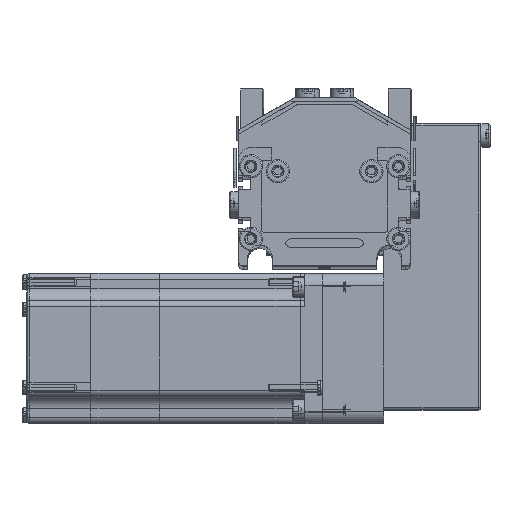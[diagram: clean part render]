
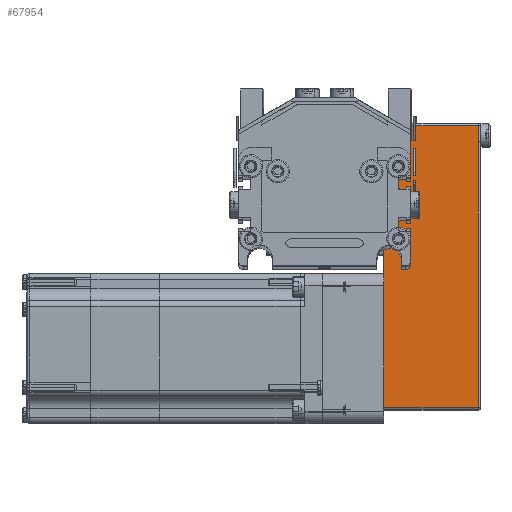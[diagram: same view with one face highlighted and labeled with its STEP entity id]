
A CAD part, top view. The second image highlights one B-rep face of the part: STEP entity #67954.
In plain terms, the highlighted planar face has unit normal (0, 0, 1) as drawn and (0, -1, 0) by its records, which use the part's own axes.
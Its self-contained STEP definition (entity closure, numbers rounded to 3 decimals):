
#67552 = ORIENTED_EDGE ( 'NONE', *, *, #67559, .T. ) ;
#67555 = EDGE_CURVE ( 'NONE', #68133, #67992, #122797, .T. ) ;
#67559 = EDGE_CURVE ( 'NONE', #67818, #68133, #122962, .T. ) ;
#67564 = ORIENTED_EDGE ( 'NONE', *, *, #67996, .T. ) ;
#67571 = EDGE_CURVE ( 'NONE', #67766, #67818, #122953, .T. ) ;
#67582 = ORIENTED_EDGE ( 'NONE', *, *, #67571, .T. ) ;
#67766 = VERTEX_POINT ( 'NONE', #123222 ) ;
#67818 = VERTEX_POINT ( 'NONE', #123370 ) ;
#67927 = EDGE_LOOP ( 'NONE', ( #67552, #68643, #67564, #67582 ) ) ;
#67954 = ADVANCED_FACE ( 'NONE', ( #124415 ), #124368, .F. ) ;
#67992 = VERTEX_POINT ( 'NONE', #124287 ) ;
#67996 = EDGE_CURVE ( 'NONE', #67992, #67766, #124286, .T. ) ;
#68133 = VERTEX_POINT ( 'NONE', #124686 ) ;
#68643 = ORIENTED_EDGE ( 'NONE', *, *, #67555, .T. ) ;
#122796 = CARTESIAN_POINT ( 'NONE',  ( -49., -25., 39.5 ) ) ;
#122797 = LINE ( 'NONE', #122796, #122966 ) ;
#122952 = CARTESIAN_POINT ( 'NONE',  ( 65.5, -25., 39.5 ) ) ;
#122953 = LINE ( 'NONE', #122952, #122964 ) ;
#122959 = DIRECTION ( 'NONE',  ( -1., 0., 0. ) ) ;
#122960 = VECTOR ( 'NONE', #122959, 1000. ) ;
#122961 = CARTESIAN_POINT ( 'NONE',  ( -50., -25., 38.5 ) ) ;
#122962 = LINE ( 'NONE', #122961, #122960 ) ;
#122963 = DIRECTION ( 'NONE',  ( 0., 0., 1. ) ) ;
#122964 = VECTOR ( 'NONE', #122963, 1000. ) ;
#122965 = DIRECTION ( 'NONE',  ( 0., 0., -1. ) ) ;
#122966 = VECTOR ( 'NONE', #122965, 1000. ) ;
#123222 = CARTESIAN_POINT ( 'NONE',  ( 65.5, -25., 0. ) ) ;
#123370 = CARTESIAN_POINT ( 'NONE',  ( 65.5, -25., 38.5 ) ) ;
#124163 = DIRECTION ( 'NONE',  ( 0., 0., 1. ) ) ;
#124164 = DIRECTION ( 'NONE',  ( 0., 1., 0. ) ) ;
#124271 = DIRECTION ( 'NONE',  ( 1., 0., 0. ) ) ;
#124272 = VECTOR ( 'NONE', #124271, 1000. ) ;
#124284 = CARTESIAN_POINT ( 'NONE',  ( -50., -25., 0. ) ) ;
#124286 = LINE ( 'NONE', #124284, #124272 ) ;
#124287 = CARTESIAN_POINT ( 'NONE',  ( -49., -25., 0. ) ) ;
#124368 = PLANE ( 'NONE',  #124429 ) ;
#124413 = CARTESIAN_POINT ( 'NONE',  ( -50., -25., 39.5 ) ) ;
#124415 = FACE_OUTER_BOUND ( 'NONE', #67927, .T. ) ;
#124429 = AXIS2_PLACEMENT_3D ( 'NONE', #124413, #124164, #124163 ) ;
#124686 = CARTESIAN_POINT ( 'NONE',  ( -49., -25., 38.5 ) ) ;
